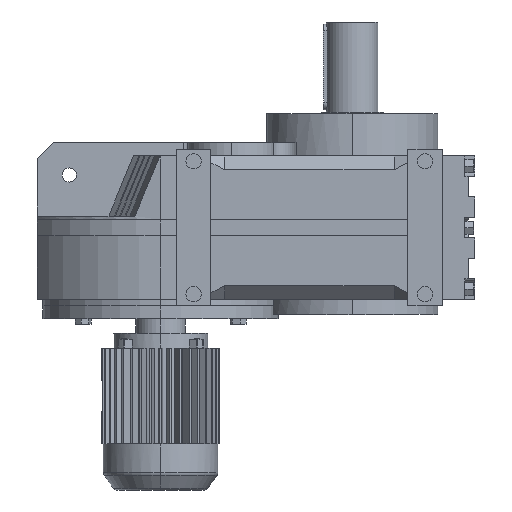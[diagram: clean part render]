
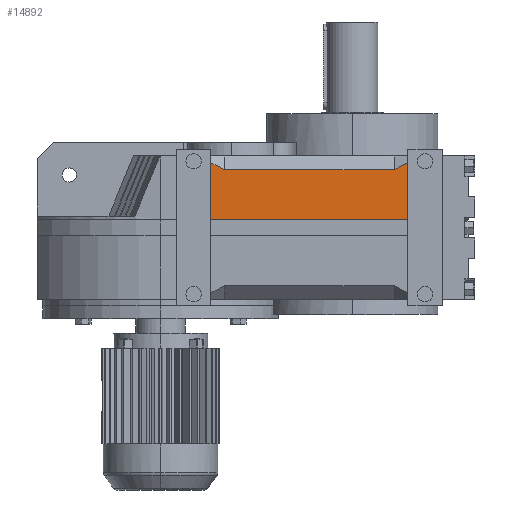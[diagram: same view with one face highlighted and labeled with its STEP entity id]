
A CAD part, left-side view. The second image highlights one B-rep face of the part: STEP entity #14892.
In plain terms, the highlighted planar face has unit normal (-1, 0, 0).
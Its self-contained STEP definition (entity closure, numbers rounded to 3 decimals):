
#310 = PLANE('',#311);
#311 = AXIS2_PLACEMENT_3D('',#312,#313,#314);
#312 = CARTESIAN_POINT('',(-260.44,-117.,0.));
#313 = DIRECTION('',(0.,-1.,0.));
#314 = DIRECTION('',(1.,0.,0.));
#338 = PLANE('',#339);
#339 = AXIS2_PLACEMENT_3D('',#340,#341,#342);
#340 = CARTESIAN_POINT('',(-454.896,-117.,194.456));
#341 = DIRECTION('',(-0.664,-0.342,0.664));
#342 = DIRECTION('',(0.707,0.,0.707)
  );
#366 = PLANE('',#367);
#367 = AXIS2_PLACEMENT_3D('',#368,#369,#370);
#368 = CARTESIAN_POINT('',(-283.44,1.,349.44));
#369 = DIRECTION('',(-0.707,0.,0.707
    ));
#370 = DIRECTION('',(0.707,0.,0.707));
#394 = PLANE('',#395);
#395 = AXIS2_PLACEMENT_3D('',#396,#397,#398);
#396 = CARTESIAN_POINT('',(-454.896,-577.,194.456));
#397 = DIRECTION('',(-0.664,0.342,0.664));
#398 = DIRECTION('',(0.707,0.,0.707));
#422 = PLANE('',#423);
#423 = AXIS2_PLACEMENT_3D('',#424,#425,#426);
#424 = CARTESIAN_POINT('',(-260.44,-577.,0.));
#425 = DIRECTION('',(0.,1.,0.));
#426 = DIRECTION('',(-1.,0.,0.));
#5305 = VERTEX_POINT('',#5306);
#5306 = CARTESIAN_POINT('',(-315.44,-545.,317.44));
#5327 = EDGE_CURVE('',#5328,#5305,#5330,.T.);
#5328 = VERTEX_POINT('',#5329);
#5329 = CARTESIAN_POINT('',(-315.44,-577.,333.911));
#5330 = SURFACE_CURVE('',#5331,(#5335,#5342),.PCURVE_S1.);
#5331 = LINE('',#5332,#5333);
#5332 = CARTESIAN_POINT('',(-315.44,-706.644,400.643));
#5333 = VECTOR('',#5334,1.);
#5334 = DIRECTION('',(0.,0.889,
    -0.458));
#5335 = PCURVE('',#394,#5336);
#5336 = DEFINITIONAL_REPRESENTATION('',(#5337),#5341);
#5337 = LINE('',#5338,#5339);
#5338 = CARTESIAN_POINT('',(244.407,-137.964));
#5339 = VECTOR('',#5340,1.);
#5340 = DIRECTION('',(-0.324,0.946));
#5341 = ( GEOMETRIC_REPRESENTATION_CONTEXT(2) 
PARAMETRIC_REPRESENTATION_CONTEXT() REPRESENTATION_CONTEXT('2D SPACE',''
  ) );
#5342 = PCURVE('',#5343,#5348);
#5343 = PLANE('',#5344);
#5344 = AXIS2_PLACEMENT_3D('',#5345,#5346,#5347);
#5345 = CARTESIAN_POINT('',(-315.44,-733.,349.44));
#5346 = DIRECTION('',(1.,0.,0.));
#5347 = DIRECTION('',(0.,1.,0.));
#5348 = DEFINITIONAL_REPRESENTATION('',(#5349),#5353);
#5349 = LINE('',#5350,#5351);
#5350 = CARTESIAN_POINT('',(26.356,51.203));
#5351 = VECTOR('',#5352,1.);
#5352 = DIRECTION('',(0.889,-0.458));
#5353 = ( GEOMETRIC_REPRESENTATION_CONTEXT(2) 
PARAMETRIC_REPRESENTATION_CONTEXT() REPRESENTATION_CONTEXT('2D SPACE',''
  ) );
#6370 = VERTEX_POINT('',#6371);
#6371 = CARTESIAN_POINT('',(-315.44,-149.,317.44));
#6392 = EDGE_CURVE('',#5305,#6370,#6393,.T.);
#6393 = SURFACE_CURVE('',#6394,(#6398,#6405),.PCURVE_S1.);
#6394 = LINE('',#6395,#6396);
#6395 = CARTESIAN_POINT('',(-315.44,-117.,317.44));
#6396 = VECTOR('',#6397,1.);
#6397 = DIRECTION('',(0.,1.,0.));
#6398 = PCURVE('',#366,#6399);
#6399 = DEFINITIONAL_REPRESENTATION('',(#6400),#6404);
#6400 = LINE('',#6401,#6402);
#6401 = CARTESIAN_POINT('',(-45.255,-118.));
#6402 = VECTOR('',#6403,1.);
#6403 = DIRECTION('',(0.,1.));
#6404 = ( GEOMETRIC_REPRESENTATION_CONTEXT(2) 
PARAMETRIC_REPRESENTATION_CONTEXT() REPRESENTATION_CONTEXT('2D SPACE',''
  ) );
#6405 = PCURVE('',#5343,#6406);
#6406 = DEFINITIONAL_REPRESENTATION('',(#6407),#6411);
#6407 = LINE('',#6408,#6409);
#6408 = CARTESIAN_POINT('',(616.,-32.));
#6409 = VECTOR('',#6410,1.);
#6410 = DIRECTION('',(1.,0.));
#6411 = ( GEOMETRIC_REPRESENTATION_CONTEXT(2) 
PARAMETRIC_REPRESENTATION_CONTEXT() REPRESENTATION_CONTEXT('2D SPACE',''
  ) );
#7064 = EDGE_CURVE('',#7065,#5328,#7067,.T.);
#7065 = VERTEX_POINT('',#7066);
#7066 = CARTESIAN_POINT('',(-315.44,-577.,200.2));
#7067 = SURFACE_CURVE('',#7068,(#7072,#7079),.PCURVE_S1.);
#7068 = LINE('',#7069,#7070);
#7069 = CARTESIAN_POINT('',(-315.44,-577.,349.44));
#7070 = VECTOR('',#7071,1.);
#7071 = DIRECTION('',(0.,0.,1.));
#7072 = PCURVE('',#422,#7073);
#7073 = DEFINITIONAL_REPRESENTATION('',(#7074),#7078);
#7074 = LINE('',#7075,#7076);
#7075 = CARTESIAN_POINT('',(55.,349.44));
#7076 = VECTOR('',#7077,1.);
#7077 = DIRECTION('',(0.,1.));
#7078 = ( GEOMETRIC_REPRESENTATION_CONTEXT(2) 
PARAMETRIC_REPRESENTATION_CONTEXT() REPRESENTATION_CONTEXT('2D SPACE',''
  ) );
#7079 = PCURVE('',#5343,#7080);
#7080 = DEFINITIONAL_REPRESENTATION('',(#7081),#7085);
#7081 = LINE('',#7082,#7083);
#7082 = CARTESIAN_POINT('',(156.,0.));
#7083 = VECTOR('',#7084,1.);
#7084 = DIRECTION('',(0.,1.));
#7085 = ( GEOMETRIC_REPRESENTATION_CONTEXT(2) 
PARAMETRIC_REPRESENTATION_CONTEXT() REPRESENTATION_CONTEXT('2D SPACE',''
  ) );
#7103 = PLANE('',#7104);
#7104 = AXIS2_PLACEMENT_3D('',#7105,#7106,#7107);
#7105 = CARTESIAN_POINT('',(14.732,1.,200.2));
#7106 = DIRECTION('',(0.,0.,-1.));
#7107 = DIRECTION('',(-1.,0.,0.));
#8257 = EDGE_CURVE('',#6370,#8258,#8260,.T.);
#8258 = VERTEX_POINT('',#8259);
#8259 = CARTESIAN_POINT('',(-315.44,-117.,333.911));
#8260 = SURFACE_CURVE('',#8261,(#8265,#8272),.PCURVE_S1.);
#8261 = LINE('',#8262,#8263);
#8262 = CARTESIAN_POINT('',(-315.44,-597.657,86.502));
#8263 = VECTOR('',#8264,1.);
#8264 = DIRECTION('',(0.,0.889,0.458
    ));
#8265 = PCURVE('',#338,#8266);
#8266 = DEFINITIONAL_REPRESENTATION('',(#8267),#8271);
#8267 = LINE('',#8268,#8269);
#8268 = CARTESIAN_POINT('',(22.275,-511.505));
#8269 = VECTOR('',#8270,1.);
#8270 = DIRECTION('',(0.324,0.946));
#8271 = ( GEOMETRIC_REPRESENTATION_CONTEXT(2) 
PARAMETRIC_REPRESENTATION_CONTEXT() REPRESENTATION_CONTEXT('2D SPACE',''
  ) );
#8272 = PCURVE('',#5343,#8273);
#8273 = DEFINITIONAL_REPRESENTATION('',(#8274),#8278);
#8274 = LINE('',#8275,#8276);
#8275 = CARTESIAN_POINT('',(135.343,-262.938));
#8276 = VECTOR('',#8277,1.);
#8277 = DIRECTION('',(0.889,0.458));
#8278 = ( GEOMETRIC_REPRESENTATION_CONTEXT(2) 
PARAMETRIC_REPRESENTATION_CONTEXT() REPRESENTATION_CONTEXT('2D SPACE',''
  ) );
#8922 = VERTEX_POINT('',#8923);
#8923 = CARTESIAN_POINT('',(-315.44,-117.,200.2));
#8944 = EDGE_CURVE('',#8258,#8922,#8945,.T.);
#8945 = SURFACE_CURVE('',#8946,(#8950,#8957),.PCURVE_S1.);
#8946 = LINE('',#8947,#8948);
#8947 = CARTESIAN_POINT('',(-315.44,-117.,349.44));
#8948 = VECTOR('',#8949,1.);
#8949 = DIRECTION('',(0.,0.,-1.));
#8950 = PCURVE('',#310,#8951);
#8951 = DEFINITIONAL_REPRESENTATION('',(#8952),#8956);
#8952 = LINE('',#8953,#8954);
#8953 = CARTESIAN_POINT('',(-55.,349.44));
#8954 = VECTOR('',#8955,1.);
#8955 = DIRECTION('',(0.,-1.));
#8956 = ( GEOMETRIC_REPRESENTATION_CONTEXT(2) 
PARAMETRIC_REPRESENTATION_CONTEXT() REPRESENTATION_CONTEXT('2D SPACE',''
  ) );
#8957 = PCURVE('',#5343,#8958);
#8958 = DEFINITIONAL_REPRESENTATION('',(#8959),#8963);
#8959 = LINE('',#8960,#8961);
#8960 = CARTESIAN_POINT('',(616.,0.));
#8961 = VECTOR('',#8962,1.);
#8962 = DIRECTION('',(0.,-1.));
#8963 = ( GEOMETRIC_REPRESENTATION_CONTEXT(2) 
PARAMETRIC_REPRESENTATION_CONTEXT() REPRESENTATION_CONTEXT('2D SPACE',''
  ) );
#14892 = ADVANCED_FACE('',(#14893),#5343,.F.);
#14893 = FACE_BOUND('',#14894,.T.);
#14894 = EDGE_LOOP('',(#14895,#14896,#14897,#14898,#14899,#14900));
#14895 = ORIENTED_EDGE('',*,*,#7064,.T.);
#14896 = ORIENTED_EDGE('',*,*,#5327,.T.);
#14897 = ORIENTED_EDGE('',*,*,#6392,.T.);
#14898 = ORIENTED_EDGE('',*,*,#8257,.T.);
#14899 = ORIENTED_EDGE('',*,*,#8944,.T.);
#14900 = ORIENTED_EDGE('',*,*,#14901,.F.);
#14901 = EDGE_CURVE('',#7065,#8922,#14902,.T.);
#14902 = SURFACE_CURVE('',#14903,(#14907,#14914),.PCURVE_S1.);
#14903 = LINE('',#14904,#14905);
#14904 = CARTESIAN_POINT('',(-315.44,-733.,200.2));
#14905 = VECTOR('',#14906,1.);
#14906 = DIRECTION('',(0.,1.,0.));
#14907 = PCURVE('',#5343,#14908);
#14908 = DEFINITIONAL_REPRESENTATION('',(#14909),#14913);
#14909 = LINE('',#14910,#14911);
#14910 = CARTESIAN_POINT('',(0.,-149.24));
#14911 = VECTOR('',#14912,1.);
#14912 = DIRECTION('',(1.,0.));
#14913 = ( GEOMETRIC_REPRESENTATION_CONTEXT(2) 
PARAMETRIC_REPRESENTATION_CONTEXT() REPRESENTATION_CONTEXT('2D SPACE',''
  ) );
#14914 = PCURVE('',#7103,#14915);
#14915 = DEFINITIONAL_REPRESENTATION('',(#14916),#14920);
#14916 = LINE('',#14917,#14918);
#14917 = CARTESIAN_POINT('',(330.172,-734.));
#14918 = VECTOR('',#14919,1.);
#14919 = DIRECTION('',(0.,1.));
#14920 = ( GEOMETRIC_REPRESENTATION_CONTEXT(2) 
PARAMETRIC_REPRESENTATION_CONTEXT() REPRESENTATION_CONTEXT('2D SPACE',''
  ) );
